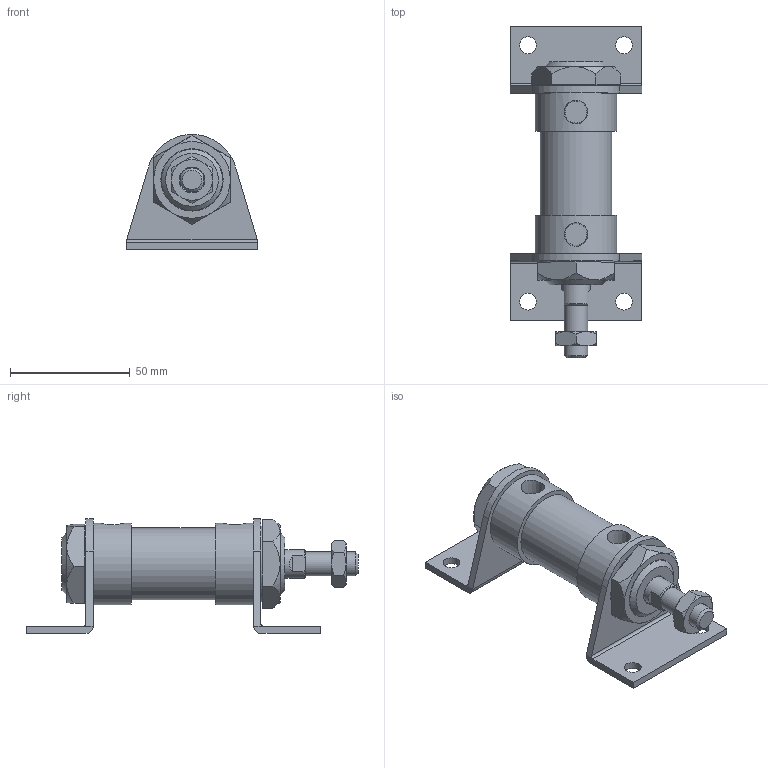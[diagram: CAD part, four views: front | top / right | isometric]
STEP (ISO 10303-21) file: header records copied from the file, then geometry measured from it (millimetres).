
FILE_DESCRIPTION(/* description */ ('Unknown'),/* implementation_level */ '2;1');
FILE_NAME(/* name */ 'WK25-LB',/* time_stamp */ '2026-07-17T16:31:22+08:00',/* author */ ('Unknown'),/* organization */ ('Unknown'),/* preprocessor_version */ 'ST-DEVELOPER v16.7',/* originating_system */ 'DEX',/* authorisation */ $);
FILE_SCHEMA (('CONFIG_CONTROL_DESIGN'));
Length unit declared in the file: millimetre
Products named in the file (8): WK25-LB; WK25_前; WK25_WK30_LB; M26-1.5P-8_螺; WK25_¤ß¶b¬¡û; WK25_後; WK25_鋁s; M10-1.25P-6_螺
Assembly tree (9 placements, depth 2):
  WK25-LB
    WK25_前
    WK25_WK30_LB  x2
    M26-1.5P-8_螺  x2
    WK25_¤ß¶b¬¡û
    WK25_後
    WK25_鋁s
    M10-1.25P-6_螺
Bounding box: 55 x 138.5 x 47.93 mm (x, y, z)
Volume: 93691.6 mm3; surface area: 41373.8 mm2
Topology: 9 solids, 9 shells, 144 faces, 309 edges, 190 vertices
Faces by surface type: plane 75, cone 40, cylinder 29
Full cylindrical faces by diameter (mm): 7 x4, 8.75 x1, 10 x1, 12 x2, 24.5 x3, 25 x1, 26 x4, 27 x2, 30 x1, 32 x2, 34 x2
Entity records: 3441 total; most frequent: CARTESIAN_POINT 595, DIRECTION 450, ORIENTED_EDGE 358, AXIS2_PLACEMENT_3D 198, EDGE_CURVE 179, EDGE_LOOP 156, FACE_BOUND 156, VERTEX_POINT 125
